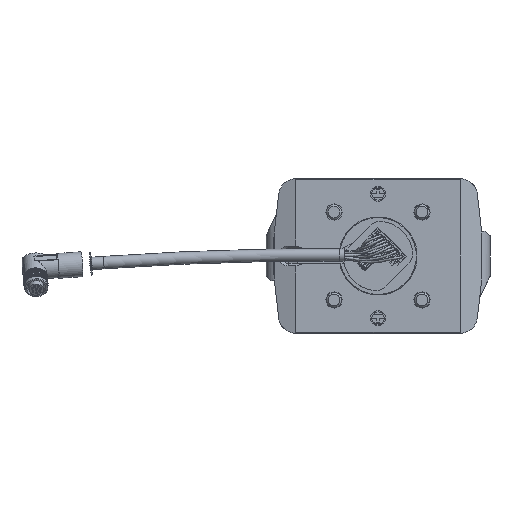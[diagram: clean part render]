
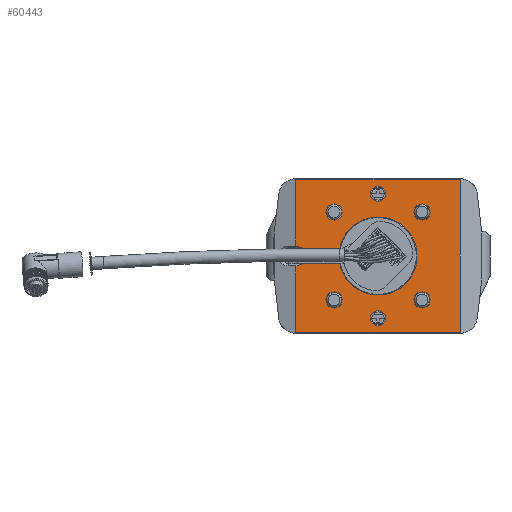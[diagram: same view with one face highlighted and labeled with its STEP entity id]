
A CAD part, front view. The second image highlights one B-rep face of the part: STEP entity #60443.
In plain terms, the highlighted planar face has unit normal (0, -1, 0).
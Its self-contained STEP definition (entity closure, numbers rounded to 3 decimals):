
#2394=FACE_BOUND('',#10754,.T.);
#2395=FACE_BOUND('',#10755,.T.);
#2396=FACE_BOUND('',#10756,.T.);
#2397=FACE_BOUND('',#10757,.T.);
#2398=FACE_BOUND('',#10758,.T.);
#2399=FACE_BOUND('',#10759,.T.);
#3947=PLANE('',#64025);
#7368=FACE_OUTER_BOUND('',#10753,.T.);
#10753=EDGE_LOOP('',(#50925,#50926,#50927,#50928,#50929,#50930,#50931,#50932,
#50933,#50934,#50935,#50936,#50937,#50938));
#10754=EDGE_LOOP('',(#50939));
#10755=EDGE_LOOP('',(#50940));
#10756=EDGE_LOOP('',(#50941));
#10757=EDGE_LOOP('',(#50942));
#10758=EDGE_LOOP('',(#50943));
#10759=EDGE_LOOP('',(#50944));
#16099=LINE('',#115751,#21548);
#16116=LINE('',#115799,#21565);
#16119=LINE('',#115809,#21568);
#16120=LINE('',#115811,#21569);
#16121=LINE('',#115813,#21570);
#16122=LINE('',#115815,#21571);
#16123=LINE('',#115817,#21572);
#16124=LINE('',#115819,#21573);
#16125=LINE('',#115821,#21574);
#16126=LINE('',#115823,#21575);
#16127=LINE('',#115827,#21576);
#16128=LINE('',#115828,#21577);
#16129=LINE('',#115829,#21578);
#21548=VECTOR('',#75302,10.);
#21565=VECTOR('',#75349,10.);
#21568=VECTOR('',#75358,10.);
#21569=VECTOR('',#75359,10.);
#21570=VECTOR('',#75360,10.);
#21571=VECTOR('',#75361,10.);
#21572=VECTOR('',#75362,10.);
#21573=VECTOR('',#75363,10.);
#21574=VECTOR('',#75364,10.);
#21575=VECTOR('',#75365,10.);
#21576=VECTOR('',#75368,10.);
#21577=VECTOR('',#75369,10.);
#21578=VECTOR('',#75370,10.);
#23306=CIRCLE('',#64026,15.724);
#23307=CIRCLE('',#64027,3.019);
#23308=CIRCLE('',#64028,3.019);
#23309=CIRCLE('',#64029,3.25);
#23310=CIRCLE('',#64030,3.25);
#23311=CIRCLE('',#64031,3.25);
#23312=CIRCLE('',#64032,3.25);
#28274=VERTEX_POINT('',#115748);
#28275=VERTEX_POINT('',#115750);
#28290=VERTEX_POINT('',#115796);
#28291=VERTEX_POINT('',#115798);
#28295=VERTEX_POINT('',#115808);
#28296=VERTEX_POINT('',#115810);
#28297=VERTEX_POINT('',#115812);
#28298=VERTEX_POINT('',#115814);
#28299=VERTEX_POINT('',#115816);
#28300=VERTEX_POINT('',#115818);
#28301=VERTEX_POINT('',#115820);
#28302=VERTEX_POINT('',#115822);
#28303=VERTEX_POINT('',#115824);
#28304=VERTEX_POINT('',#115826);
#28305=VERTEX_POINT('',#115830);
#28306=VERTEX_POINT('',#115832);
#28307=VERTEX_POINT('',#115834);
#28308=VERTEX_POINT('',#115836);
#28309=VERTEX_POINT('',#115838);
#28310=VERTEX_POINT('',#115840);
#36017=EDGE_CURVE('',#28275,#28274,#16099,.T.);
#36042=EDGE_CURVE('',#28290,#28291,#16116,.T.);
#36047=EDGE_CURVE('',#28295,#28291,#16119,.T.);
#36048=EDGE_CURVE('',#28290,#28296,#16120,.T.);
#36049=EDGE_CURVE('',#28297,#28296,#16121,.T.);
#36050=EDGE_CURVE('',#28297,#28298,#16122,.T.);
#36051=EDGE_CURVE('',#28299,#28298,#16123,.T.);
#36052=EDGE_CURVE('',#28299,#28300,#16124,.T.);
#36053=EDGE_CURVE('',#28301,#28300,#16125,.F.);
#36054=EDGE_CURVE('',#28301,#28302,#16126,.T.);
#36055=EDGE_CURVE('',#28302,#28303,#23306,.T.);
#36056=EDGE_CURVE('',#28303,#28304,#16127,.T.);
#36057=EDGE_CURVE('',#28275,#28304,#16128,.F.);
#36058=EDGE_CURVE('',#28295,#28274,#16129,.T.);
#36059=EDGE_CURVE('',#28305,#28305,#23307,.T.);
#36060=EDGE_CURVE('',#28306,#28306,#23308,.T.);
#36061=EDGE_CURVE('',#28307,#28307,#23309,.T.);
#36062=EDGE_CURVE('',#28308,#28308,#23310,.T.);
#36063=EDGE_CURVE('',#28309,#28309,#23311,.T.);
#36064=EDGE_CURVE('',#28310,#28310,#23312,.T.);
#50925=ORIENTED_EDGE('',*,*,#36047,.T.);
#50926=ORIENTED_EDGE('',*,*,#36042,.F.);
#50927=ORIENTED_EDGE('',*,*,#36048,.T.);
#50928=ORIENTED_EDGE('',*,*,#36049,.F.);
#50929=ORIENTED_EDGE('',*,*,#36050,.T.);
#50930=ORIENTED_EDGE('',*,*,#36051,.F.);
#50931=ORIENTED_EDGE('',*,*,#36052,.T.);
#50932=ORIENTED_EDGE('',*,*,#36053,.F.);
#50933=ORIENTED_EDGE('',*,*,#36054,.T.);
#50934=ORIENTED_EDGE('',*,*,#36055,.T.);
#50935=ORIENTED_EDGE('',*,*,#36056,.T.);
#50936=ORIENTED_EDGE('',*,*,#36057,.F.);
#50937=ORIENTED_EDGE('',*,*,#36017,.T.);
#50938=ORIENTED_EDGE('',*,*,#36058,.F.);
#50939=ORIENTED_EDGE('',*,*,#36059,.T.);
#50940=ORIENTED_EDGE('',*,*,#36060,.T.);
#50941=ORIENTED_EDGE('',*,*,#36061,.T.);
#50942=ORIENTED_EDGE('',*,*,#36062,.T.);
#50943=ORIENTED_EDGE('',*,*,#36063,.T.);
#50944=ORIENTED_EDGE('',*,*,#36064,.T.);
#60443=ADVANCED_FACE('',(#7368,#2394,#2395,#2396,#2397,#2398,#2399),#3947,
 .F.);
#64025=AXIS2_PLACEMENT_3D('',#115807,#75356,#75357);
#64026=AXIS2_PLACEMENT_3D('',#115825,#75366,#75367);
#64027=AXIS2_PLACEMENT_3D('',#115831,#75371,#75372);
#64028=AXIS2_PLACEMENT_3D('',#115833,#75373,#75374);
#64029=AXIS2_PLACEMENT_3D('',#115835,#75375,#75376);
#64030=AXIS2_PLACEMENT_3D('',#115837,#75377,#75378);
#64031=AXIS2_PLACEMENT_3D('',#115839,#75379,#75380);
#64032=AXIS2_PLACEMENT_3D('',#115841,#75381,#75382);
#75302=DIRECTION('',(-1.,0.,0.));
#75349=DIRECTION('',(-1.,0.,0.));
#75356=DIRECTION('center_axis',(0.,1.,0.));
#75357=DIRECTION('ref_axis',(0.,0.,
1.));
#75358=DIRECTION('',(0.,0.,-1.));
#75359=DIRECTION('',(0.,0.,1.));
#75360=DIRECTION('',(1.,0.,0.));
#75361=DIRECTION('',(0.,0.,-1.));
#75362=DIRECTION('',(-0.953,0.,0.302));
#75363=DIRECTION('',(1.,0.,0.));
#75364=DIRECTION('',(-0.707,0.,0.707));
#75365=DIRECTION('',(0.,0.,1.));
#75366=DIRECTION('center_axis',(0.,1.,0.));
#75367=DIRECTION('ref_axis',(0.967,0.,0.254));
#75368=DIRECTION('',(0.,0.,1.));
#75369=DIRECTION('',(0.707,0.,0.707));
#75370=DIRECTION('',(0.953,0.,0.302));
#75371=DIRECTION('center_axis',(0.,1.,0.));
#75372=DIRECTION('ref_axis',(1.,0.,0.));
#75373=DIRECTION('center_axis',(0.,1.,0.));
#75374=DIRECTION('ref_axis',(1.,0.,0.));
#75375=DIRECTION('center_axis',(0.,1.,0.));
#75376=DIRECTION('ref_axis',(1.,0.,0.));
#75377=DIRECTION('center_axis',(0.,1.,0.));
#75378=DIRECTION('ref_axis',(1.,0.,0.));
#75379=DIRECTION('center_axis',(0.,1.,0.));
#75380=DIRECTION('ref_axis',(1.,0.,0.));
#75381=DIRECTION('center_axis',(0.,1.,0.));
#75382=DIRECTION('ref_axis',(1.,0.,0.));
#115748=CARTESIAN_POINT('',(-29.838,-10.,-3.));
#115750=CARTESIAN_POINT('',(-14.907,-10.,-3.));
#115751=CARTESIAN_POINT('',(-17.5,-10.,-3.));
#115796=CARTESIAN_POINT('',(33.,-10.,-30.7));
#115798=CARTESIAN_POINT('',(-33.,-10.,-30.7));
#115799=CARTESIAN_POINT('',(-16.5,-10.,-30.7));
#115807=CARTESIAN_POINT('Origin',(0.,-10.,0.));
#115808=CARTESIAN_POINT('',(-33.,-10.,-4.));
#115809=CARTESIAN_POINT('',(-33.,-10.,0.));
#115810=CARTESIAN_POINT('',(33.,-10.,30.7));
#115811=CARTESIAN_POINT('',(33.,-10.,0.));
#115812=CARTESIAN_POINT('',(-33.,-10.,30.7));
#115813=CARTESIAN_POINT('',(16.5,-10.,30.7));
#115814=CARTESIAN_POINT('',(-33.,-10.,4.));
#115815=CARTESIAN_POINT('',(-33.,-10.,0.));
#115816=CARTESIAN_POINT('',(-29.838,-10.,3.));
#115817=CARTESIAN_POINT('',(-10.531,-10.,-3.105));
#115818=CARTESIAN_POINT('',(-14.907,-10.,3.));
#115819=CARTESIAN_POINT('',(0.,-10.,3.));
#115820=CARTESIAN_POINT('',(-15.207,-10.,3.3));
#115821=CARTESIAN_POINT('',(-10.505,-10.,-1.402));
#115822=CARTESIAN_POINT('',(-15.207,-10.,4.));
#115823=CARTESIAN_POINT('',(-15.207,-10.,2.));
#115824=CARTESIAN_POINT('',(-15.207,-10.,-4.));
#115825=CARTESIAN_POINT('Origin',(0.,-10.,0.));
#115826=CARTESIAN_POINT('',(-15.207,-10.,-3.3));
#115827=CARTESIAN_POINT('',(-15.207,-10.,2.));
#115828=CARTESIAN_POINT('',(-10.505,-10.,1.402));
#115829=CARTESIAN_POINT('',(-17.69,-10.,0.841));
#115830=CARTESIAN_POINT('',(-3.019,-10.,-25.));
#115831=CARTESIAN_POINT('Origin',(0.,-10.,-25.));
#115832=CARTESIAN_POINT('',(-3.019,-10.,25.));
#115833=CARTESIAN_POINT('Origin',(0.,-10.,25.));
#115834=CARTESIAN_POINT('',(-20.928,-10.,17.678));
#115835=CARTESIAN_POINT('Origin',(-17.678,-10.,17.678));
#115836=CARTESIAN_POINT('',(14.428,-10.,-17.678));
#115837=CARTESIAN_POINT('Origin',(17.678,-10.,-17.678));
#115838=CARTESIAN_POINT('',(-20.928,-10.,-17.678));
#115839=CARTESIAN_POINT('Origin',(-17.678,-10.,-17.678));
#115840=CARTESIAN_POINT('',(14.428,-10.,17.678));
#115841=CARTESIAN_POINT('Origin',(17.678,-10.,17.678));
